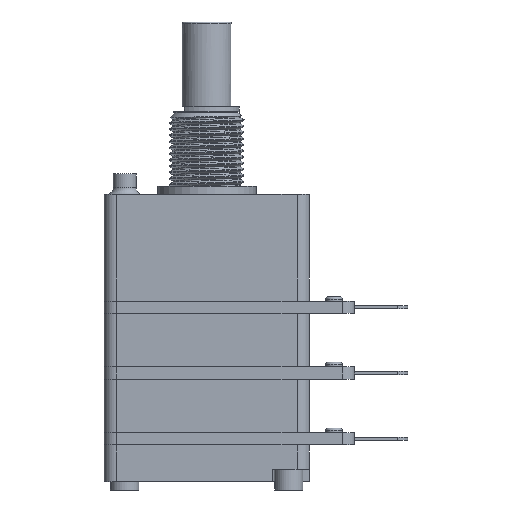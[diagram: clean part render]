
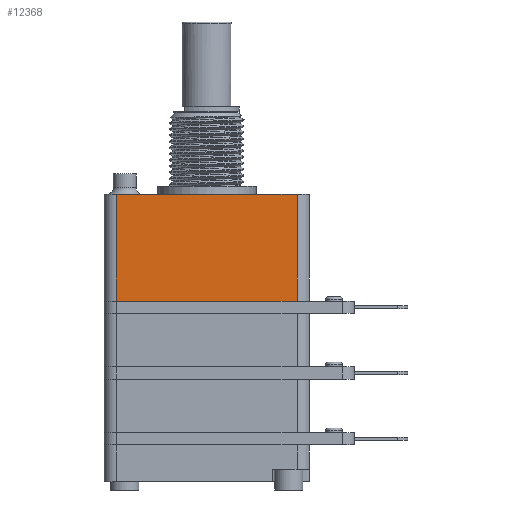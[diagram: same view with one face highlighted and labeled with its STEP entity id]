
A CAD part, left-side view. The second image highlights one B-rep face of the part: STEP entity #12368.
In plain terms, the highlighted planar face has unit normal (-1, 0, 0).
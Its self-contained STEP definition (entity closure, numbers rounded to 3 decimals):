
#8606 = PLANE('',#8607);
#8607 = AXIS2_PLACEMENT_3D('',#8608,#8609,#8610);
#8608 = CARTESIAN_POINT('',(-12.5,-18.,-15.5));
#8609 = DIRECTION('',(1.,0.,0.));
#8610 = DIRECTION('',(0.,0.,1.));
#10327 = VERTEX_POINT('',#10328);
#10328 = CARTESIAN_POINT('',(-12.5,-11.,-14.));
#10495 = CYLINDRICAL_SURFACE('',#10496,1.5);
#10496 = AXIS2_PLACEMENT_3D('',#10497,#10498,#10499);
#10497 = CARTESIAN_POINT('',(-11.,-11.,-14.));
#10498 = DIRECTION('',(0.,0.,1.));
#10499 = DIRECTION('',(-1.,0.,0.));
#10633 = PLANE('',#10634);
#10634 = AXIS2_PLACEMENT_3D('',#10635,#10636,#10637);
#10635 = CARTESIAN_POINT('',(-12.5,-12.5,-1.));
#10636 = DIRECTION('',(0.,0.,1.));
#10637 = DIRECTION('',(1.,0.,0.));
#10838 = VERTEX_POINT('',#10839);
#10839 = CARTESIAN_POINT('',(-12.5,11.,-14.));
#10854 = CYLINDRICAL_SURFACE('',#10855,1.5);
#10855 = AXIS2_PLACEMENT_3D('',#10856,#10857,#10858);
#10856 = CARTESIAN_POINT('',(-11.,11.,-14.));
#10857 = DIRECTION('',(0.,0.,1.));
#10858 = DIRECTION('',(-1.,0.,0.));
#10963 = EDGE_CURVE('',#10327,#10838,#10964,.T.);
#10964 = SURFACE_CURVE('',#10965,(#10969,#10976),.PCURVE_S1.);
#10965 = LINE('',#10966,#10967);
#10966 = CARTESIAN_POINT('',(-12.5,-18.,-14.));
#10967 = VECTOR('',#10968,1.);
#10968 = DIRECTION('',(0.,1.,0.));
#10969 = PCURVE('',#8606,#10970);
#10970 = DEFINITIONAL_REPRESENTATION('',(#10971),#10975);
#10971 = LINE('',#10972,#10973);
#10972 = CARTESIAN_POINT('',(1.5,0.));
#10973 = VECTOR('',#10974,1.);
#10974 = DIRECTION('',(0.,-1.));
#10975 = ( GEOMETRIC_REPRESENTATION_CONTEXT(2) 
PARAMETRIC_REPRESENTATION_CONTEXT() REPRESENTATION_CONTEXT('2D SPACE',''
  ) );
#10976 = PCURVE('',#10977,#10982);
#10977 = PLANE('',#10978);
#10978 = AXIS2_PLACEMENT_3D('',#10979,#10980,#10981);
#10979 = CARTESIAN_POINT('',(-12.5,-12.5,-14.));
#10980 = DIRECTION('',(1.,0.,0.));
#10981 = DIRECTION('',(0.,0.,1.));
#10982 = DEFINITIONAL_REPRESENTATION('',(#10983),#10987);
#10983 = LINE('',#10984,#10985);
#10984 = CARTESIAN_POINT('',(0.,5.5));
#10985 = VECTOR('',#10986,1.);
#10986 = DIRECTION('',(0.,-1.));
#10987 = ( GEOMETRIC_REPRESENTATION_CONTEXT(2) 
PARAMETRIC_REPRESENTATION_CONTEXT() REPRESENTATION_CONTEXT('2D SPACE',''
  ) );
#11813 = VERTEX_POINT('',#11814);
#11814 = CARTESIAN_POINT('',(-12.5,-11.,-1.));
#11836 = EDGE_CURVE('',#10327,#11813,#11837,.T.);
#11837 = SURFACE_CURVE('',#11838,(#11842,#11849),.PCURVE_S1.);
#11838 = LINE('',#11839,#11840);
#11839 = CARTESIAN_POINT('',(-12.5,-11.,-14.));
#11840 = VECTOR('',#11841,1.);
#11841 = DIRECTION('',(0.,0.,1.));
#11842 = PCURVE('',#10495,#11843);
#11843 = DEFINITIONAL_REPRESENTATION('',(#11844),#11848);
#11844 = LINE('',#11845,#11846);
#11845 = CARTESIAN_POINT('',(0.,0.));
#11846 = VECTOR('',#11847,1.);
#11847 = DIRECTION('',(0.,1.));
#11848 = ( GEOMETRIC_REPRESENTATION_CONTEXT(2) 
PARAMETRIC_REPRESENTATION_CONTEXT() REPRESENTATION_CONTEXT('2D SPACE',''
  ) );
#11849 = PCURVE('',#10977,#11850);
#11850 = DEFINITIONAL_REPRESENTATION('',(#11851),#11855);
#11851 = LINE('',#11852,#11853);
#11852 = CARTESIAN_POINT('',(0.,-1.5));
#11853 = VECTOR('',#11854,1.);
#11854 = DIRECTION('',(1.,0.));
#11855 = ( GEOMETRIC_REPRESENTATION_CONTEXT(2) 
PARAMETRIC_REPRESENTATION_CONTEXT() REPRESENTATION_CONTEXT('2D SPACE',''
  ) );
#12102 = EDGE_CURVE('',#11813,#12103,#12105,.T.);
#12103 = VERTEX_POINT('',#12104);
#12104 = CARTESIAN_POINT('',(-12.5,11.,-1.));
#12105 = SURFACE_CURVE('',#12106,(#12110,#12117),.PCURVE_S1.);
#12106 = LINE('',#12107,#12108);
#12107 = CARTESIAN_POINT('',(-12.5,-12.5,-1.));
#12108 = VECTOR('',#12109,1.);
#12109 = DIRECTION('',(0.,1.,0.));
#12110 = PCURVE('',#10633,#12111);
#12111 = DEFINITIONAL_REPRESENTATION('',(#12112),#12116);
#12112 = LINE('',#12113,#12114);
#12113 = CARTESIAN_POINT('',(0.,0.));
#12114 = VECTOR('',#12115,1.);
#12115 = DIRECTION('',(0.,1.));
#12116 = ( GEOMETRIC_REPRESENTATION_CONTEXT(2) 
PARAMETRIC_REPRESENTATION_CONTEXT() REPRESENTATION_CONTEXT('2D SPACE',''
  ) );
#12117 = PCURVE('',#10977,#12118);
#12118 = DEFINITIONAL_REPRESENTATION('',(#12119),#12123);
#12119 = LINE('',#12120,#12121);
#12120 = CARTESIAN_POINT('',(13.,0.));
#12121 = VECTOR('',#12122,1.);
#12122 = DIRECTION('',(0.,-1.));
#12123 = ( GEOMETRIC_REPRESENTATION_CONTEXT(2) 
PARAMETRIC_REPRESENTATION_CONTEXT() REPRESENTATION_CONTEXT('2D SPACE',''
  ) );
#12348 = EDGE_CURVE('',#10838,#12103,#12349,.T.);
#12349 = SURFACE_CURVE('',#12350,(#12354,#12361),.PCURVE_S1.);
#12350 = LINE('',#12351,#12352);
#12351 = CARTESIAN_POINT('',(-12.5,11.,-14.));
#12352 = VECTOR('',#12353,1.);
#12353 = DIRECTION('',(0.,0.,1.));
#12354 = PCURVE('',#10854,#12355);
#12355 = DEFINITIONAL_REPRESENTATION('',(#12356),#12360);
#12356 = LINE('',#12357,#12358);
#12357 = CARTESIAN_POINT('',(-0.,0.));
#12358 = VECTOR('',#12359,1.);
#12359 = DIRECTION('',(-0.,1.));
#12360 = ( GEOMETRIC_REPRESENTATION_CONTEXT(2) 
PARAMETRIC_REPRESENTATION_CONTEXT() REPRESENTATION_CONTEXT('2D SPACE',''
  ) );
#12361 = PCURVE('',#10977,#12362);
#12362 = DEFINITIONAL_REPRESENTATION('',(#12363),#12367);
#12363 = LINE('',#12364,#12365);
#12364 = CARTESIAN_POINT('',(0.,-23.5));
#12365 = VECTOR('',#12366,1.);
#12366 = DIRECTION('',(1.,0.));
#12367 = ( GEOMETRIC_REPRESENTATION_CONTEXT(2) 
PARAMETRIC_REPRESENTATION_CONTEXT() REPRESENTATION_CONTEXT('2D SPACE',''
  ) );
#12368 = ADVANCED_FACE('',(#12369),#10977,.F.);
#12369 = FACE_BOUND('',#12370,.F.);
#12370 = EDGE_LOOP('',(#12371,#12372,#12373,#12374));
#12371 = ORIENTED_EDGE('',*,*,#12102,.F.);
#12372 = ORIENTED_EDGE('',*,*,#11836,.F.);
#12373 = ORIENTED_EDGE('',*,*,#10963,.T.);
#12374 = ORIENTED_EDGE('',*,*,#12348,.T.);
